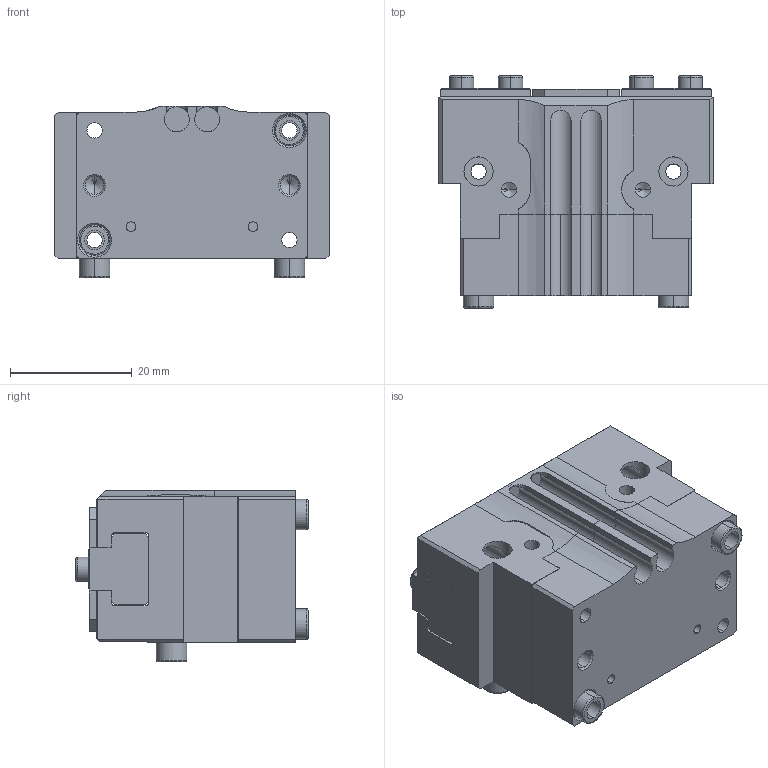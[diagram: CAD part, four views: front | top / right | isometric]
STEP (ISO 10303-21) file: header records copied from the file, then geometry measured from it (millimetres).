
FILE_DESCRIPTION (( 'STEP AP203' ), '1' );
FILE_NAME ('OPP-40-C1-MC&MA-原始檔-組合-W106.04.19.STEP', '2017-04-19T07:34:58', ( 'DanyaoCAD' ), ( '' ), 'SwSTEP 2.0', 'SolidWorks 2016', '' );
FILE_SCHEMA (( 'CONFIG_CONTROL_DESIGN' ));
Length unit declared in the file: millimetre
Products named in the file (7): Griffa; Corpo; Coperchio; OPP-40-C1-MC&MA-原始檔-組合-W106.04.19; Fondello; Boccola __2; Boccola _
Assembly tree (13 placements, depth 2):
  OPP-40-C1-MC&MA-原始檔-組合-W106.04.19
    Fondello
    Boccola __2  x4
    Boccola _  x4
    Griffa  x2
    Corpo
    Coperchio
Bounding box: 45 x 38.1 x 28.2 mm (x, y, z)
Volume: 29631.6 mm3; surface area: 16259.8 mm2
Topology: 44 solids, 44 shells, 1223 faces, 3285 edges, 2136 vertices
Faces by surface type: bspline 672, plane 327, cylinder 156, cone 68
Entity records: 52596 total; most frequent: CARTESIAN_POINT 27758, ORIENTED_EDGE 6054, EDGE_CURVE 3027, DIRECTION 2939, VERTEX_POINT 1997, LINE 1427, VECTOR 1427, B_SPLINE_CURVE_WITH_KNOTS 1307
